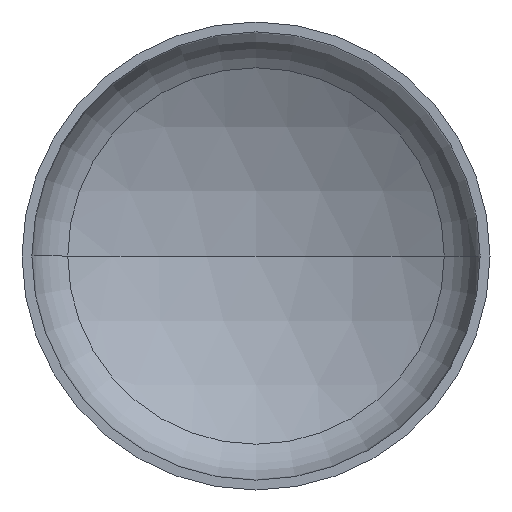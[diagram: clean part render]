
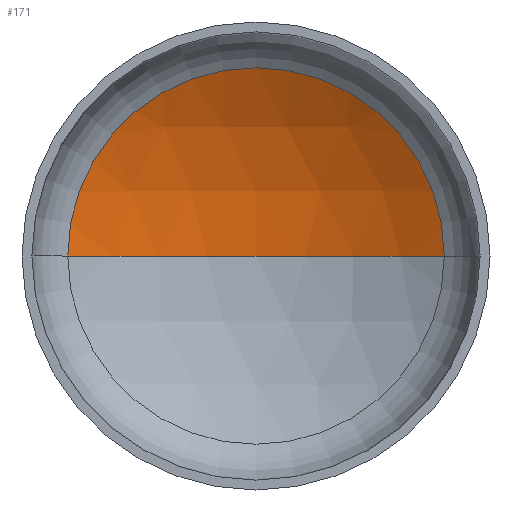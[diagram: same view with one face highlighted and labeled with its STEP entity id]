
A CAD part, front view. The second image highlights one B-rep face of the part: STEP entity #171.
In plain terms, the highlighted spherical face has radius 2880 mm.
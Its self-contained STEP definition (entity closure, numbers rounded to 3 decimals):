
#5 = DIRECTION ( 'NONE',  ( 0., 0., -1. ) ) ;
#10 = CARTESIAN_POINT ( 'NONE',  ( 0., -1889.742, 0. ) ) ;
#14 = ORIENTED_EDGE ( 'NONE', *, *, #119, .T. ) ;
#18 = EDGE_LOOP ( 'NONE', ( #32, #14, #129 ) ) ;
#21 = AXIS2_PLACEMENT_3D ( 'NONE', #240, #211, #270 ) ;
#32 = ORIENTED_EDGE ( 'NONE', *, *, #144, .F. ) ;
#33 = AXIS2_PLACEMENT_3D ( 'NONE', #225, #219, #224 ) ;
#38 = AXIS2_PLACEMENT_3D ( 'NONE', #10, #5, #190 ) ;
#42 = AXIS2_PLACEMENT_3D ( 'NONE', #217, #202, #204 ) ;
#55 = VERTEX_POINT ( 'NONE', #252 ) ;
#81 = VERTEX_POINT ( 'NONE', #329 ) ;
#90 = EDGE_CURVE ( 'NONE', #55, #93, #158, .T. ) ;
#93 = VERTEX_POINT ( 'NONE', #314 ) ;
#119 = EDGE_CURVE ( 'NONE', #81, #55, #229, .T. ) ;
#129 = ORIENTED_EDGE ( 'NONE', *, *, #90, .T. ) ;
#144 = EDGE_CURVE ( 'NONE', #81, #93, #148, .T. ) ;
#148 = CIRCLE ( 'NONE', #33, 2880. ) ;
#158 = CIRCLE ( 'NONE', #42, 1448.052 ) ;
#171 = ADVANCED_FACE ( 'NONE', ( #391 ), #336, .F. ) ;
#190 = DIRECTION ( 'NONE',  ( -1., 0., 0. ) ) ;
#202 = DIRECTION ( 'NONE',  ( 0., -1., 0. ) ) ;
#204 = DIRECTION ( 'NONE',  ( 1., 0., 0. ) ) ;
#211 = DIRECTION ( 'NONE',  ( 0., 0., -1. ) ) ;
#217 = CARTESIAN_POINT ( 'NONE',  ( 0., 599.745, 0. ) ) ;
#219 = DIRECTION ( 'NONE',  ( 0., 0., 1. ) ) ;
#224 = DIRECTION ( 'NONE',  ( 1., 0., 0. ) ) ;
#225 = CARTESIAN_POINT ( 'NONE',  ( 0., -1889.742, 0. ) ) ;
#229 = CIRCLE ( 'NONE', #38, 2880. ) ;
#240 = CARTESIAN_POINT ( 'NONE',  ( 0., -1889.742, 0. ) ) ;
#252 = CARTESIAN_POINT ( 'NONE',  ( 1448.052, 599.745, 0. ) ) ;
#270 = DIRECTION ( 'NONE',  ( -1., 0., 0. ) ) ;
#314 = CARTESIAN_POINT ( 'NONE',  ( -1448.052, 599.745, 0. ) ) ;
#329 = CARTESIAN_POINT ( 'NONE',  ( 0., 990.258, 0. ) ) ;
#336 = SPHERICAL_SURFACE ( 'NONE', #21, 2880. ) ;
#391 = FACE_OUTER_BOUND ( 'NONE', #18, .T. ) ;
